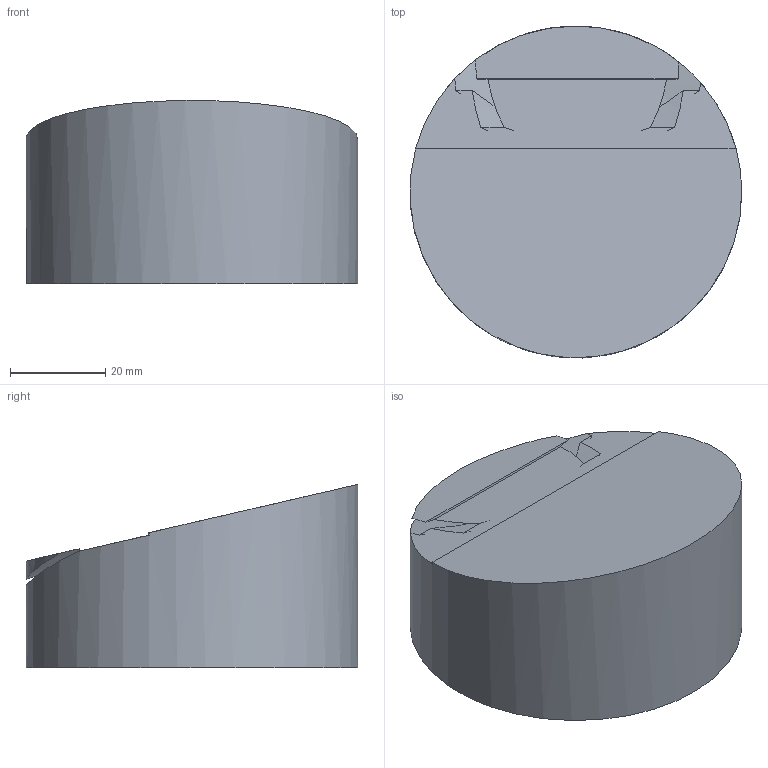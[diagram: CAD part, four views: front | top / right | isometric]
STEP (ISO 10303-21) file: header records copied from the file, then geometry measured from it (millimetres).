
FILE_DESCRIPTION(/* description */ ('STEP AP242 Edition 2','CAx-IF Rec.Pracs.---Representation and Presentation of Product Manufacturing Information (PMI)---4.0---2014-10-13','CAx-IF Rec.Pracs.---3D Tessellated Geometry---0.4---2014-09-14','2;1','CAx-IF Rec.Pracs.---User Defined Attributes---1.5---2016-08-15'),/* implementation_level */ '2;1');
FILE_NAME(/* name */ 'Part Studio 1 - Part 14',/* time_stamp */ '2026-10-19T00:09:51Z',/* author */ (''),/* organization */ (''),/* preprocessor_version */ 'ST-DEVELOPER v20',/* originating_system */ 'ONSHAPE BY PTC INC, 1.222',/* authorisation */ ' ');
FILE_SCHEMA (('AP242_MANAGED_MODEL_BASED_3D_ENGINEERING_MIM_LF { 1 0 10303 442 3 1 4 }'));
Length unit declared in the file: metre
Products named in the file (1): Part 14
Bounding box: 69.71 x 69.75 x 38.49 mm (x, y, z)
Volume: 114837 mm3; surface area: 16416.2 mm2
Topology: 1 solids, 1 shells, 15 faces, 38 edges, 25 vertices
Faces by surface type: plane 9, cylinder 3, bspline 2, cone 1
Full cylindrical faces by diameter (mm): 69.782 x1
Entity records: 609 total; most frequent: CARTESIAN_POINT 264, ORIENTED_EDGE 68, DIRECTION 65, EDGE_CURVE 34, AXIS2_PLACEMENT_3D 28, VERTEX_POINT 23, EDGE_LOOP 15, FACE_BOUND 15
